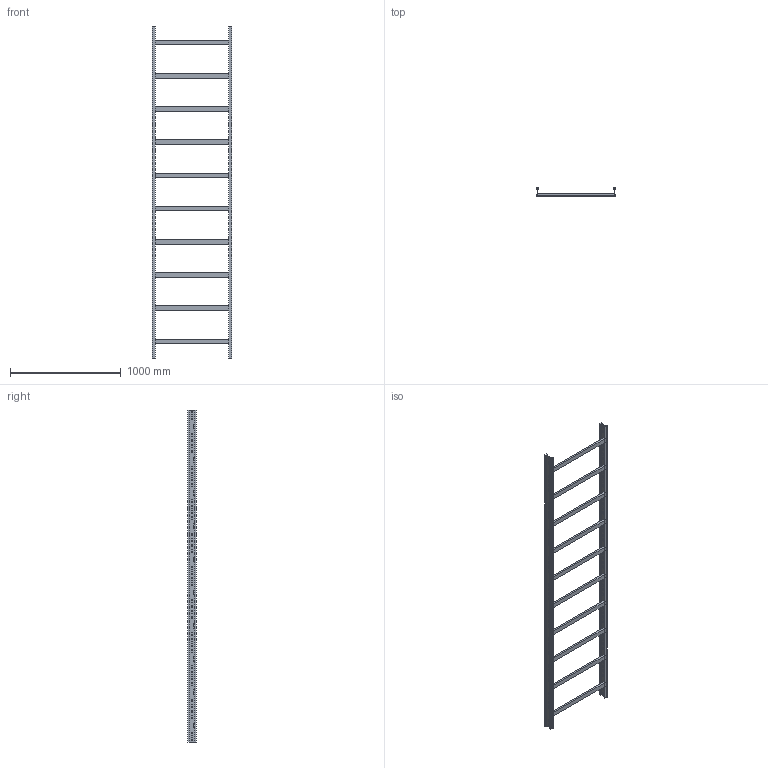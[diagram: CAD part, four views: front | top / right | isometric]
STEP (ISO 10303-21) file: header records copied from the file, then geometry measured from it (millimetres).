
FILE_DESCRIPTION (( 'STEP AP214' ), '1' );
FILE_NAME ('01S3C700.step', '2025-02-21T16:21:11', ( '' ), ( '' ), 'SwSTEP 2.0', 'SolidWorks 2023', '' );
FILE_SCHEMA (( 'AUTOMOTIVE_DESIGN' ));
Length unit declared in the file: millimetre
Products named in the file (3): LONGH.H75; 01S3C700; TRAVERSINO_700
Assembly tree (12 placements, depth 2):
  01S3C700
    LONGH.H75  x2
    TRAVERSINO_700  x10
Bounding box: 718 x 75 x 3000 mm (x, y, z)
Volume: 8575200 mm3; surface area: 2315701 mm2
Topology: 12 solids, 12 shells, 408 faces, 1152 edges, 768 vertices
Faces by surface type: plane 408
Entity records: 6180 total; most frequent: CARTESIAN_POINT 1075, ORIENTED_EDGE 1056, DIRECTION 918, EDGE_CURVE 528, VECTOR 528, LINE 528, VERTEX_POINT 352, EDGE_LOOP 260
